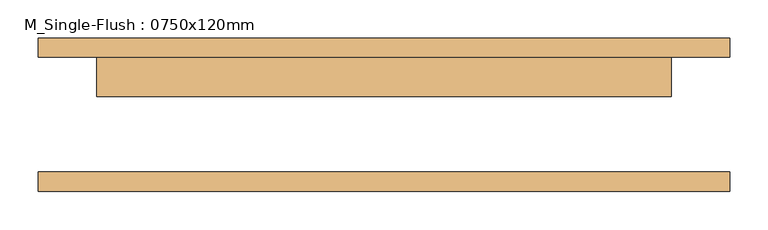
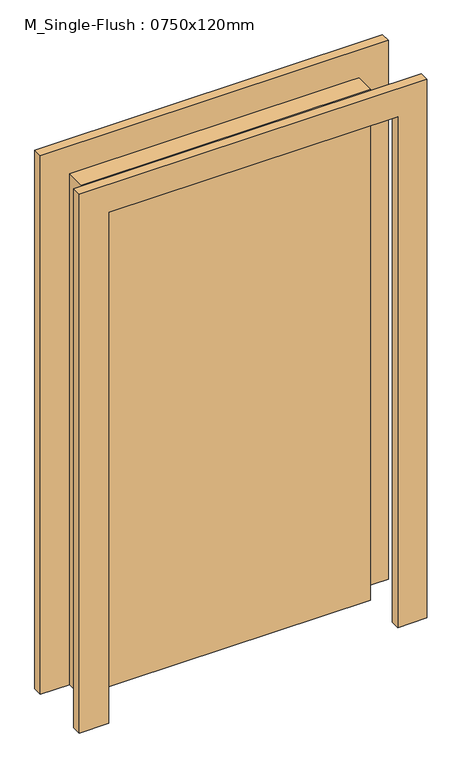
"""IFC4 building model written with IfcOpenShell, lengths in millimetres: door geometry, M_Single-Flush : 0750x120mm."""

from ifc_helpers import new_model, si_unit, frame, origin, origin_with_axes, place, context, project, spatial, polyline, outline, extrude, source, transform, mapped, element, save


def m_single_flush_0750x120mm_57592dc2(model_context):
    return source(origin(), model_context, "Body", "SweptSolid", [
        extrude(outline(polyline([(375.0, 24.0), (-375.0, 24.0), (-375.0, 75.0), (375.0, 75.0), (375.0, 24.0)])), origin_with_axes(), (0.0, 0.0, 1.0), 1400.0),
        extrude(outline(polyline([(1476.0, -451.0), (0.0, -451.0), (0.0, -375.0), (1400.0, -375.0), (1400.0, 375.0), (0.0, 375.0), (0.0, 451.0), (1476.0, 451.0), (1476.0, -451.0)])), frame((0.0, 75.0, 0.0), z_axis=(0.0, 1.0, 0.0), x_axis=(0.0, 0.0, 1.0)), (0.0, 0.0, 1.0), 25.0),
        extrude(outline(polyline([(1476.0, 451.0), (1476.0, -451.0), (0.0, -451.0), (0.0, -375.0), (1400.0, -375.0), (1400.0, 375.0), (0.0, 375.0), (0.0, 451.0), (1476.0, 451.0)])), frame((0.0, -100.0, 0.0), z_axis=(0.0, 1.0, 0.0), x_axis=(0.0, 0.0, 1.0)), (0.0, 0.0, 1.0), 25.0),
    ])


if __name__ == "__main__":
    model = new_model("IFC4")
    model_context = context("Model", 3, world=origin())
    ifc_project = project(units=[si_unit("LENGTHUNIT", "METRE", prefix="MILLI")], contexts=[model_context])
    site = spatial("IfcSite", under=ifc_project)
    building = spatial("IfcBuilding", under=site)
    placement = place(None, origin())
    m_single_flush_0750x120mm_shape = m_single_flush_0750x120mm_57592dc2(model_context)
    element("IfcDoor", 1, ObjectType="M_Single-Flush : 0750x120mm", at=placement, inside=building, context=model_context, shape_type="MappedRepresentation", body=[
        mapped(m_single_flush_0750x120mm_shape, transform((0.0, 0.0, 0.0), x_axis=(1.0, 0.0, 0.0), y_axis=(0.0, 1.0, 0.0), z_axis=(0.0, 0.0, 1.0))),
    ])
    save(model, "model.ifc")
